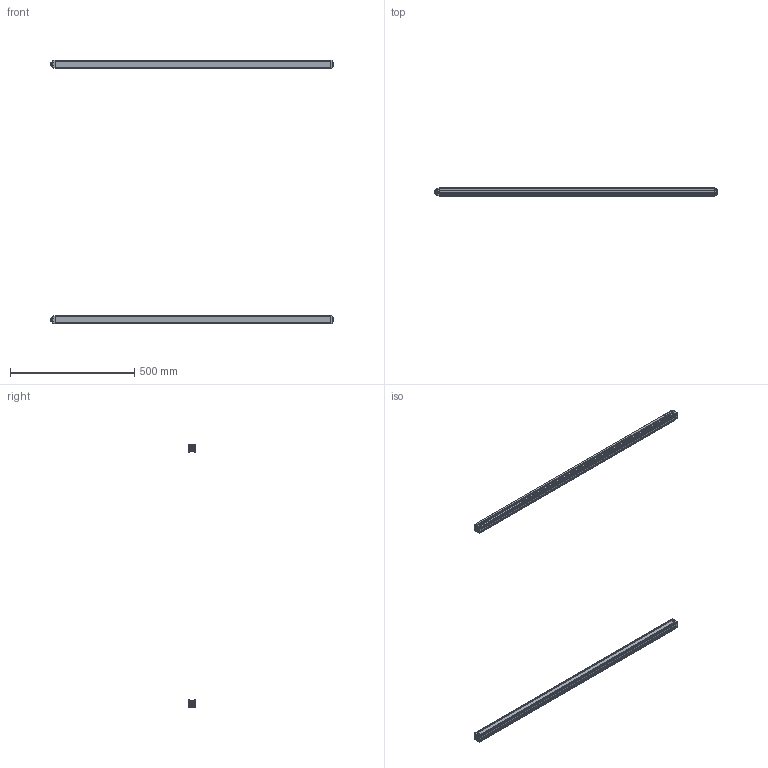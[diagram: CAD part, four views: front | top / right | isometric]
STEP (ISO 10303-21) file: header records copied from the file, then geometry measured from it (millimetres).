
FILE_DESCRIPTION(/* description */ ('CAx-IF Rec.Pracs.---Representation and Presentation of Product Manufacturing Information (PMI)---4.0---2014-10-13','CAx-IF Rec.Pracs.---3D Tessellated Geometry---0.4---2014-09-14','2;1'),/* implementation_level */ '4;1');
FILE_NAME(/* name */ 'THS10-108',/* time_stamp */ '2024-06-14T16:35:49+08:00',/* author */ (''),/* organization */ (' '),/* preprocessor_version */ 'ST-DEVELOPER v16.7',/* originating_system */ $,/* authorisation */ $);
FILE_SCHEMA (('AP242_MANAGED_MODEL_BASED_3D_ENGINEERING_MIM_LF { 1 0 10303 442 20130219 1 4 }'));
Length unit declared in the file: millimetre
Products named in the file (12): THS10-108; THS10-100; 11; 101; 102; 13; 12; ASM0002_ASM; 14; 16
Assembly tree (18 placements, depth 4):
  THS10-108
    THS10-100
      11
      101
      102
      13
      12
      ASM0002_ASM
        14
        16
    THS10-100
      11
      101
      102
      13
      12
      ASM0002_ASM
        14
        16
Bounding box: 1137 x 30.3 x 1058.6 mm (x, y, z)
Volume: 694347.8 mm3; surface area: 750599.6 mm2
Topology: 10 solids, 14 shells, 1080 faces, 3010 edges, 1986 vertices
Faces by surface type: plane 764, cylinder 288, cone 28
Entity records: 18706 total; most frequent: CARTESIAN_POINT 3396, DIRECTION 3125, ORIENTED_EDGE 3006, EDGE_CURVE 1505, LINE 1173, VECTOR 1173, AXIS2_PLACEMENT_3D 1073, VERTEX_POINT 993
